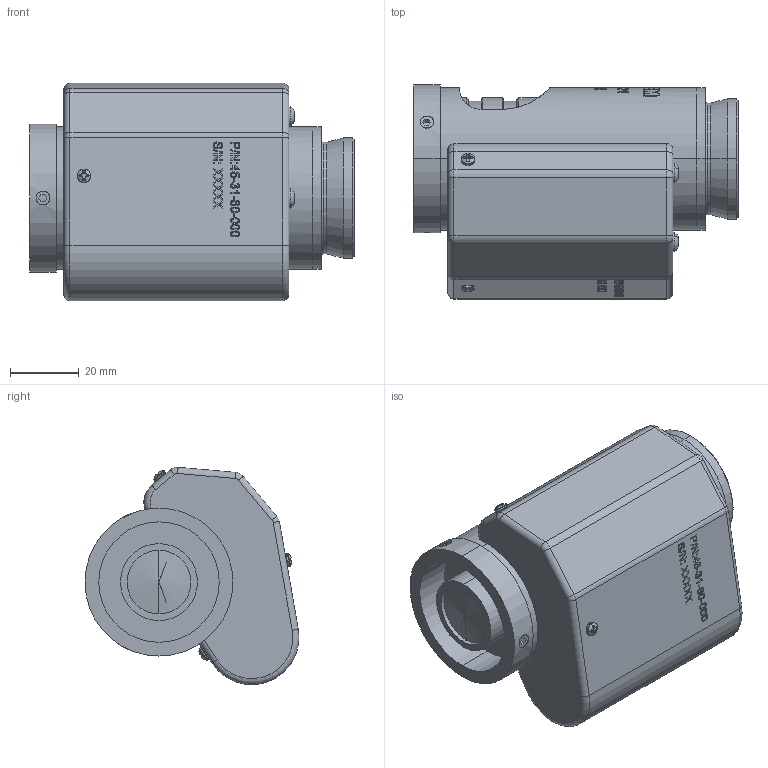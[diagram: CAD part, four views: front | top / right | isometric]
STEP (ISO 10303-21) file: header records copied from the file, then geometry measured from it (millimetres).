
FILE_DESCRIPTION (( 'STEP AP203' ), '1' );
FILE_NAME ('45-31-60-000 OUTLINE.STEP', '2020-07-14T02:00:32', ( '' ), ( '' ), 'SwSTEP 2.0', 'SolidWorks 2018', '' );
FILE_SCHEMA (( 'CONFIG_CONTROL_DESIGN' ));
Length unit declared in the file: millimetre
Products named in the file (1): 45-31-60-000 OUTLINE
Bounding box: 94.08 x 62.05 x 63.04 mm (x, y, z)
Volume: 188998.5 mm3; surface area: 39129.4 mm2
Topology: 7 solids, 7 shells, 964 faces, 2536 edges, 1670 vertices
Faces by surface type: plane 527, bspline 217, cylinder 129, cone 53, torus 28, sphere 10
Entity records: 44696 total; most frequent: CARTESIAN_POINT 22290, ORIENTED_EDGE 5032, DIRECTION 3895, EDGE_CURVE 2516, VERTEX_POINT 1670, VECTOR 1329, LINE 1329, AXIS2_PLACEMENT_3D 1283
